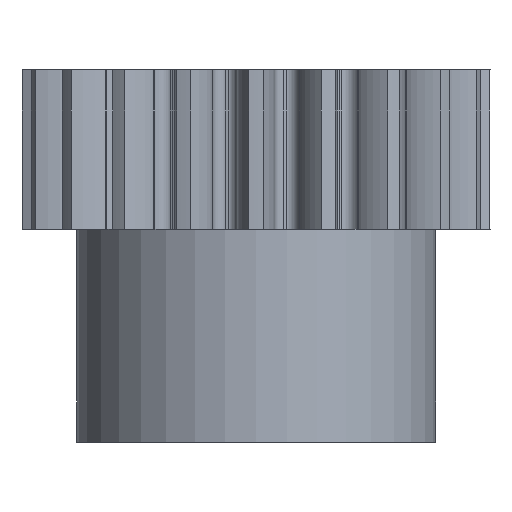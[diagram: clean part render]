
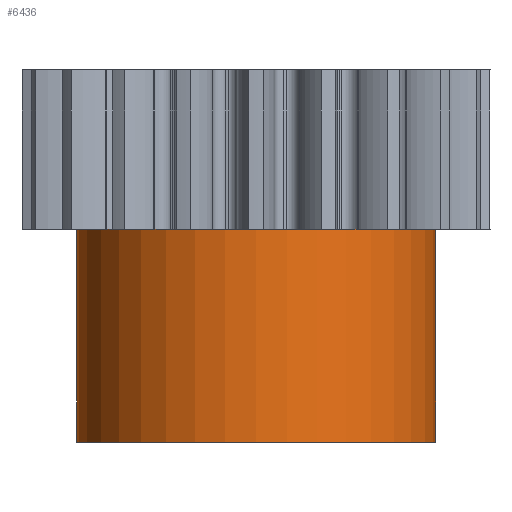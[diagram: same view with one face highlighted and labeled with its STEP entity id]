
A CAD part, front view. The second image highlights one B-rep face of the part: STEP entity #6436.
In plain terms, the highlighted cylindrical face has radius 6.75 mm (diameter 13.5 mm), a partial arc.
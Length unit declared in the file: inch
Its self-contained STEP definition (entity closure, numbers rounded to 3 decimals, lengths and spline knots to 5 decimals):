
#633 = CARTESIAN_POINT ( 'NONE',  ( -0.26575, 0., -0.31496 ) ) ;
#2132 = LINE ( 'NONE', #2474, #4263 ) ;
#2258 = DIRECTION ( 'NONE',  ( -1., 0., 0. ) ) ;
#2474 = CARTESIAN_POINT ( 'NONE',  ( -0.26575, 0., -0.31496 ) ) ;
#3117 = VERTEX_POINT ( 'NONE', #14184 ) ;
#3395 = DIRECTION ( 'NONE',  ( 0., 0., -1. ) ) ;
#3793 = EDGE_CURVE ( 'NONE', #7052, #3117, #2132, .T. ) ;
#4263 = VECTOR ( 'NONE', #10419, 39.37008 ) ;
#4464 = AXIS2_PLACEMENT_3D ( 'NONE', #12807, #5727, #13571 ) ;
#5342 = EDGE_LOOP ( 'NONE', ( #9428, #9130, #14505, #12402 ) ) ;
#5727 = DIRECTION ( 'NONE',  ( 0., 0., -1. ) ) ;
#6436 = ADVANCED_FACE ( 'NONE', ( #6480 ), #13132, .T. ) ;
#6480 = FACE_OUTER_BOUND ( 'NONE', #5342, .T. ) ;
#6865 = CARTESIAN_POINT ( 'NONE',  ( 0.26575, 0., 0. ) ) ;
#7028 = CIRCLE ( 'NONE', #4464, 0.26575 ) ;
#7052 = VERTEX_POINT ( 'NONE', #633 ) ;
#7719 = VERTEX_POINT ( 'NONE', #6865 ) ;
#8153 = VERTEX_POINT ( 'NONE', #12359 ) ;
#8728 = CARTESIAN_POINT ( 'NONE',  ( 0., 0., -0.31496 ) ) ;
#8969 = AXIS2_PLACEMENT_3D ( 'NONE', #8728, #3395, #2258 ) ;
#9130 = ORIENTED_EDGE ( 'NONE', *, *, #13595, .F. ) ;
#9428 = ORIENTED_EDGE ( 'NONE', *, *, #3793, .F. ) ;
#9461 = DIRECTION ( 'NONE',  ( 1., 0., 0. ) ) ;
#9531 = CARTESIAN_POINT ( 'NONE',  ( 0.26575, 0., -0.31496 ) ) ;
#9571 = CARTESIAN_POINT ( 'NONE',  ( 0., 0., -0.31496 ) ) ;
#9669 = AXIS2_PLACEMENT_3D ( 'NONE', #9571, #11858, #9461 ) ;
#10419 = DIRECTION ( 'NONE',  ( 0., 0., 1. ) ) ;
#10850 = LINE ( 'NONE', #9531, #14387 ) ;
#11858 = DIRECTION ( 'NONE',  ( 0., 0., 1. ) ) ;
#12359 = CARTESIAN_POINT ( 'NONE',  ( 0.26575, 0., -0.31496 ) ) ;
#12402 = ORIENTED_EDGE ( 'NONE', *, *, #13274, .T. ) ;
#12807 = CARTESIAN_POINT ( 'NONE',  ( 0., 0., 0. ) ) ;
#12887 = DIRECTION ( 'NONE',  ( 0., 0., 1. ) ) ;
#13132 = CYLINDRICAL_SURFACE ( 'NONE', #9669, 0.26575 ) ;
#13274 = EDGE_CURVE ( 'NONE', #7719, #3117, #7028, .T. ) ;
#13571 = DIRECTION ( 'NONE',  ( -1., 0., 0. ) ) ;
#13595 = EDGE_CURVE ( 'NONE', #8153, #7052, #13673, .T. ) ;
#13673 = CIRCLE ( 'NONE', #8969, 0.26575 ) ;
#14184 = CARTESIAN_POINT ( 'NONE',  ( -0.26575, 0., 0. ) ) ;
#14387 = VECTOR ( 'NONE', #12887, 39.37008 ) ;
#14505 = ORIENTED_EDGE ( 'NONE', *, *, #14565, .T. ) ;
#14565 = EDGE_CURVE ( 'NONE', #8153, #7719, #10850, .T. ) ;
